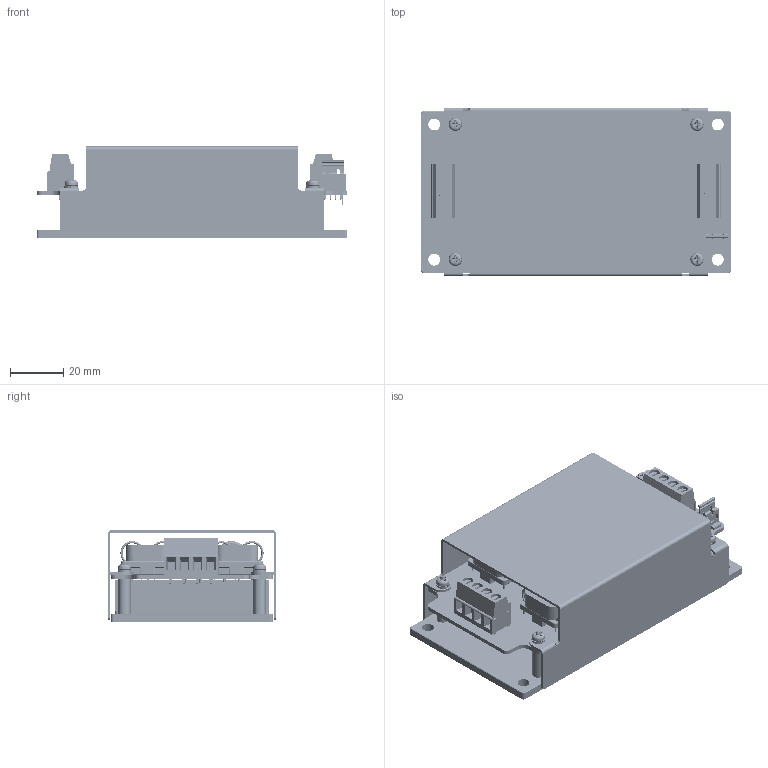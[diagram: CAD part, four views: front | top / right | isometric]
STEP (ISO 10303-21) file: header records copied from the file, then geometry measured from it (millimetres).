
FILE_DESCRIPTION (( 'STEP AP203' ), '1' );
FILE_NAME ('CQB50W12 CMFD 2025.01.02.STEP', '2025-01-03T09:25:36', ( '' ), ( '' ), 'SwSTEP 2.0', 'SolidWorks 2020', '' );
FILE_SCHEMA (( 'CONFIG_CONTROL_DESIGN' ));
Products named in the file (1): CQB50W12 CMFD 2025.01.02
Bounding box: 116.84 x 63.36 x 34.3 mm (x, y, z)
Volume: 90928.7 mm3; surface area: 78068.9 mm2
Topology: 15 solids, 15 shells, 2330 faces, 7126 edges, 4461 vertices
Faces by surface type: plane 1457, cylinder 341, bspline 337, cone 111, torus 50, sphere 34
Full cylindrical faces by diameter (mm): 0.5 x16, 0.942 x8, 1.02 x6, 1.2 x6, 1.5 x2, 2.2 x2, 3.2 x9, 3.25 x1, 3.5 x4, 3.8 x8, 4 x10, 4.3 x2, 4.5 x6, 4.7 x8, 5 x4, 8.635 x2, 8.762 x1, 11.775 x2, 12.56 x2
Entity records: 328475 total; most frequent: CARTESIAN_POINT 270839, ORIENTED_EDGE 13130, DIRECTION 9695, EDGE_CURVE 6565, VERTEX_POINT 4360, VECTOR 4041, LINE 4041, EDGE_LOOP 3035
